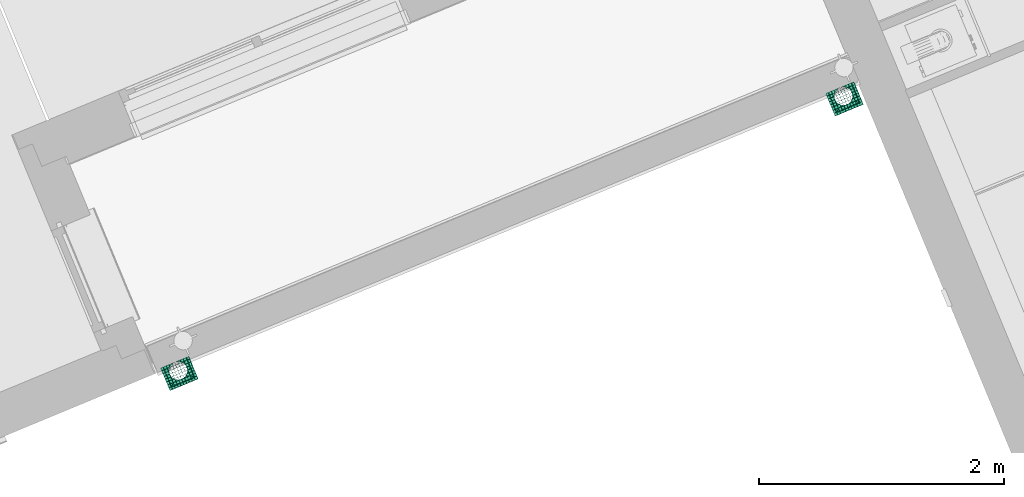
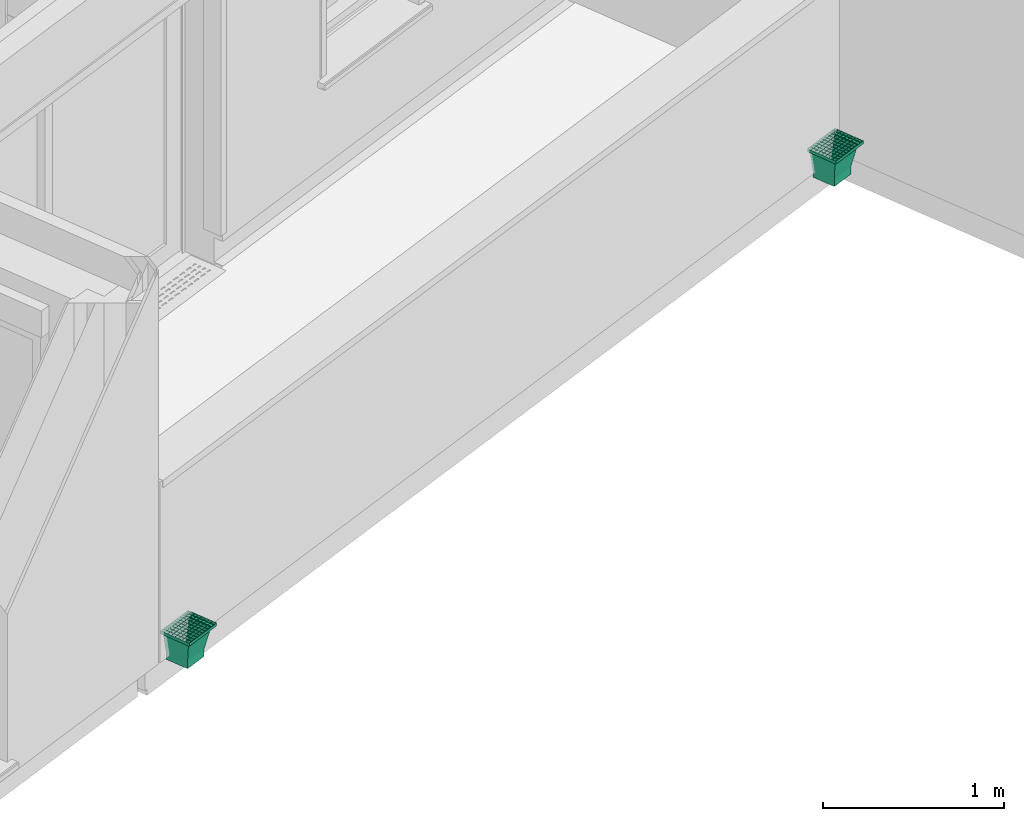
# One storey, part 83 of 91: 2 flow terminals.
"""IFC2X3 building model written with IfcOpenShell, lengths in metres."""

from ifc_helpers import new_model, entity, si_unit, converted_unit, derived_unit, money_unit, direction, frame, origin_with_axes, place, context, subcontext, project, spatial, open_shell, surface_model, source, transform, mapped, type_object, element, save


model = new_model("IFC2X3")

# Units and contexts
model_context = context("Model", 3, precision=1e-05, world=origin_with_axes(), true_north=direction((0.0, 1.0)))
body_context = subcontext(model_context, "Body", "Model", "MODEL_VIEW")
ifc_project = project(units=[si_unit("LENGTHUNIT", "METRE"), si_unit("AREAUNIT", "SQUARE_METRE"), si_unit("VOLUMEUNIT", "CUBIC_METRE"), converted_unit("PLANEANGLEUNIT", "DEGREE", entity("IfcPlaneAngleMeasure", 0.0174532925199), si_unit("PLANEANGLEUNIT", "RADIAN"), dimensions=[0, 0, 0, 0, 0, 0, 0]), si_unit("SOLIDANGLEUNIT", "STERADIAN"), money_unit("EUR"), converted_unit("TIMEUNIT", "Year", entity("IfcTimeMeasure", 31556926.0), si_unit("TIMEUNIT", "SECOND"), dimensions=[0, 0, 1, 0, 0, 0, 0]), si_unit("MASSUNIT", "GRAM", prefix="KILO"), si_unit("THERMODYNAMICTEMPERATUREUNIT", "DEGREE_CELSIUS"), si_unit("LUMINOUSINTENSITYUNIT", "LUMEN"), si_unit("ENERGYUNIT", "JOULE", prefix="MEGA"), derived_unit("THERMALCONDUCTANCEUNIT", [(si_unit("POWERUNIT", "WATT"), 1), (si_unit("LENGTHUNIT", "METRE"), -1), (si_unit("THERMODYNAMICTEMPERATUREUNIT", "KELVIN"), -1)]), derived_unit("SPECIFICHEATCAPACITYUNIT", [(si_unit("ENERGYUNIT", "JOULE"), 1), (si_unit("MASSUNIT", "GRAM", prefix="KILO"), -1), (si_unit("THERMODYNAMICTEMPERATUREUNIT", "KELVIN"), -1)]), derived_unit("MASSDENSITYUNIT", [(si_unit("MASSUNIT", "GRAM", prefix="KILO"), 1), (si_unit("VOLUMEUNIT", "CUBIC_METRE"), -1)])], contexts=[model_context])

# Site, building, storey
site_placement = place(None, origin_with_axes())
site = spatial("IfcSite", under=ifc_project, at=site_placement, Name="Site", CompositionType="ELEMENT")
building_placement = place(site_placement, origin_with_axes())
building = spatial("IfcBuilding", under=site, at=building_placement, Name="Bâtiment", CompositionType="ELEMENT")
storey_placement = place(building_placement, frame((0.0, 0.0, 5.44), z_axis=(0.0, 0.0, 1.0), x_axis=(1.0, 0.0, 0.0)))
storey = spatial("IfcBuildingStorey", under=building, at=storey_placement, Name="R+2", CompositionType="ELEMENT", Elevation=5.44)

# Flow terminals
waste_terminal_type = type_object("IfcWasteTerminalType", Name="Boite à eau 23", PredefinedType="GULLYTRAP")
shared_shape = source(origin_with_axes(), body_context, "Body", "SurfaceModel", [
    surface_model("IfcShellBasedSurfaceModel", [(0.125, -0.125, 0.2), (0.125, -0.125, 0.22), (-0.125, -0.125, 0.22), (-0.125, -0.125, 0.2), (0.103571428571, -0.103571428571, 0.2), (-0.103571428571, -0.103571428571, 0.2), (0.075, -0.075, 0.05), (-0.075, -0.075, 0.05), (0.075, -0.075, 0.0), (-0.075, -0.075, 0.0)], [open_shell([[[0, 1, 2, 3]], [[4, 0, 3, 5]], [[6, 4, 5, 7]], [[8, 6, 7, 9]]])]),
    surface_model("IfcShellBasedSurfaceModel", [(0.125, 0.075, 0.22), (0.125, -0.125, 0.22), (0.125, -0.125, 0.2), (0.125, 0.075, 0.2), (0.103571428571, -0.103571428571, 0.2), (0.103571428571, 0.075, 0.2), (0.075, -0.075, 0.05), (0.075, 0.075, 0.05), (0.075, -0.075, 0.0), (0.075, 0.075, 0.0)], [open_shell([[[0, 1, 2, 3]], [[3, 2, 4, 5]], [[5, 4, 6, 7]], [[7, 6, 8, 9]]])]),
    surface_model("IfcShellBasedSurfaceModel", [(-0.125, 0.075, 0.22), (-0.125, 0.075, 0.2), (-0.125, -0.125, 0.2), (-0.125, -0.125, 0.22), (-0.103571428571, 0.075, 0.2), (-0.103571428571, -0.103571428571, 0.2), (-0.075, 0.075, 0.05), (-0.075, -0.075, 0.05), (-0.075, 0.075, 0.0), (-0.075, -0.075, 0.0)], [open_shell([[[0, 1, 2, 3]], [[1, 4, 5, 2]], [[4, 6, 7, 5]], [[6, 8, 9, 7]]])]),
    surface_model("IfcShellBasedSurfaceModel", [(0.125, 0.075, 0.22), (0.125, 0.075, 0.2), (0.103571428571, 0.075, 0.2), (0.075, 0.075, 0.05), (0.075, 0.075, 0.0), (0.075, 0.075, 0.22)], [open_shell([[[0, 1, 2, 3, 4, 5]]])]),
    surface_model("IfcShellBasedSurfaceModel", [(-0.125, 0.075, 0.22), (-0.125, 0.075, 0.2), (-0.103571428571, 0.075, 0.2), (-0.075, 0.075, 0.05), (-0.075, 0.075, 0.0), (-0.075, 0.075, 0.22)], [open_shell([[[0, 1, 2, 3, 4, 5]]])]),
    surface_model("IfcShellBasedSurfaceModel", [(-0.075, 0.075, 0.0), (-0.075, 0.075, 0.22), (0.075, 0.075, 0.22), (0.075, 0.075, 0.0)], [open_shell([[[0, 1, 2, 3]]])]),
    surface_model("IfcShellBasedSurfaceModel", [(0.075, -0.075, 0.0), (-0.075, -0.075, 0.0), (-0.075, 0.075, 0.0), (0.075, 0.075, 0.0), (-0.075, 0.0, 0.0), (-0.0692909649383, -0.0287012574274, 0.0), (-0.053033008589, -0.053033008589, 0.0), (-0.0287012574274, -0.0692909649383, 0.0), (0.0, -0.075, 0.0), (0.0287012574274, -0.0692909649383, 0.0), (0.053033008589, -0.053033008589, 0.0), (0.0692909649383, -0.0287012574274, 0.0), (0.075, 0.0, 0.0), (0.0692909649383, 0.0287012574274, 0.0), (0.053033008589, 0.053033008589, 0.0), (0.0287012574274, 0.0692909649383, 0.0), (0.0, 0.075, 0.0), (-0.0287012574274, 0.0692909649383, 0.0), (-0.053033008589, 0.053033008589, 0.0), (-0.0692909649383, 0.0287012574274, 0.0)], [open_shell([[[0, 1, 2, 3], [4, 5, 6, 7, 8, 9, 10, 11, 12, 13, 14, 15, 16, 17, 18, 19]]])]),
    surface_model("IfcShellBasedSurfaceModel", [(-0.1, -0.125, 0.22), (-0.102, -0.125, 0.22), (-0.102, 0.075, 0.22), (-0.1, 0.075, 0.22)], [open_shell([[[0, 1, 2, 3]]])]),
    surface_model("IfcShellBasedSurfaceModel", [(-0.075, -0.125, 0.22), (-0.077, -0.125, 0.22), (-0.077, 0.075, 0.22), (-0.075, 0.075, 0.22)], [open_shell([[[0, 1, 2, 3]]])]),
    surface_model("IfcShellBasedSurfaceModel", [(-0.05, -0.125, 0.22), (-0.052, -0.125, 0.22), (-0.052, 0.075, 0.22), (-0.05, 0.075, 0.22)], [open_shell([[[0, 1, 2, 3]]])]),
    surface_model("IfcShellBasedSurfaceModel", [(-0.025, -0.125, 0.22), (-0.027, -0.125, 0.22), (-0.027, 0.075, 0.22), (-0.025, 0.075, 0.22)], [open_shell([[[0, 1, 2, 3]]])]),
    surface_model("IfcShellBasedSurfaceModel", [(0.0, -0.125, 0.22), (-0.002, -0.125, 0.22), (-0.002, 0.075, 0.22), (0.0, 0.075, 0.22)], [open_shell([[[0, 1, 2, 3]]])]),
    surface_model("IfcShellBasedSurfaceModel", [(0.025, -0.125, 0.22), (0.023, -0.125, 0.22), (0.023, 0.075, 0.22), (0.025, 0.075, 0.22)], [open_shell([[[0, 1, 2, 3]]])]),
    surface_model("IfcShellBasedSurfaceModel", [(0.05, -0.125, 0.22), (0.048, -0.125, 0.22), (0.048, 0.075, 0.22), (0.05, 0.075, 0.22)], [open_shell([[[0, 1, 2, 3]]])]),
    surface_model("IfcShellBasedSurfaceModel", [(0.075, -0.125, 0.22), (0.073, -0.125, 0.22), (0.073, 0.075, 0.22), (0.075, 0.075, 0.22)], [open_shell([[[0, 1, 2, 3]]])]),
    surface_model("IfcShellBasedSurfaceModel", [(0.1, -0.125, 0.22), (0.098, -0.125, 0.22), (0.098, 0.075, 0.22), (0.1, 0.075, 0.22)], [open_shell([[[0, 1, 2, 3]]])]),
    surface_model("IfcShellBasedSurfaceModel", [(0.125, -0.125, 0.22), (0.123, -0.125, 0.22), (0.123, 0.075, 0.22), (0.125, 0.075, 0.22)], [open_shell([[[0, 1, 2, 3]]])]),
    surface_model("IfcShellBasedSurfaceModel", [(-0.125, 0.052, 0.22), (0.125, 0.052, 0.22), (0.125, 0.05, 0.22), (-0.125, 0.05, 0.22)], [open_shell([[[0, 1, 2, 3]]])]),
    surface_model("IfcShellBasedSurfaceModel", [(-0.125, 0.027, 0.22), (0.125, 0.027, 0.22), (0.125, 0.025, 0.22), (-0.125, 0.025, 0.22)], [open_shell([[[0, 1, 2, 3]]])]),
    surface_model("IfcShellBasedSurfaceModel", [(-0.125, 0.002, 0.22), (0.125, 0.002, 0.22), (0.125, 0.0, 0.22), (-0.125, 0.0, 0.22)], [open_shell([[[0, 1, 2, 3]]])]),
    surface_model("IfcShellBasedSurfaceModel", [(-0.125, -0.023, 0.22), (0.125, -0.023, 0.22), (0.125, -0.025, 0.22), (-0.125, -0.025, 0.22)], [open_shell([[[0, 1, 2, 3]]])]),
    surface_model("IfcShellBasedSurfaceModel", [(-0.125, -0.048, 0.22), (0.125, -0.048, 0.22), (0.125, -0.05, 0.22), (-0.125, -0.05, 0.22)], [open_shell([[[0, 1, 2, 3]]])]),
    surface_model("IfcShellBasedSurfaceModel", [(-0.125, -0.073, 0.22), (0.125, -0.073, 0.22), (0.125, -0.075, 0.22), (-0.125, -0.075, 0.22)], [open_shell([[[0, 1, 2, 3]]])]),
    surface_model("IfcShellBasedSurfaceModel", [(-0.125, -0.098, 0.22), (0.125, -0.098, 0.22), (0.125, -0.1, 0.22), (-0.125, -0.1, 0.22)], [open_shell([[[0, 1, 2, 3]]])]),
    surface_model("IfcShellBasedSurfaceModel", [(-0.125, -0.123, 0.22), (0.125, -0.123, 0.22), (0.125, -0.125, 0.22), (-0.125, -0.125, 0.22)], [open_shell([[[0, 1, 2, 3]]])]),
])
for number, where, z_axis, x_axis, name in (
    (1, (-27.1582122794, -27.0588753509, -0.0354482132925), (0.0, 0.0, 1.0), (0.923701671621, 0.383112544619, 0.0), "MOB-005"),
    (2, (-21.7335768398, -24.8197910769, -0.0354482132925), (0.0, 0.0, 1.0), (0.923701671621, 0.383112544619, 0.0), "MOB-005"),
):
    element("IfcFlowTerminal", number, at=place(storey_placement, frame(where, z_axis=z_axis, x_axis=x_axis)), inside=storey, type_object=waste_terminal_type, Name=name, context=body_context, shape_type="MappedRepresentation", body=[
        mapped(shared_shape, transform((0.0, 0.0, 0.0))),
    ])

save(model, "model.ifc")
